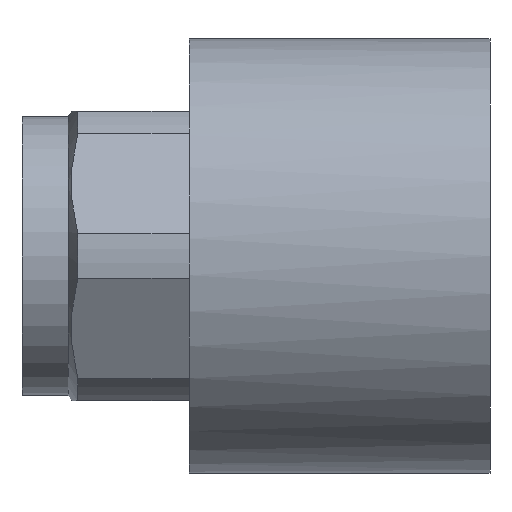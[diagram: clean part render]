
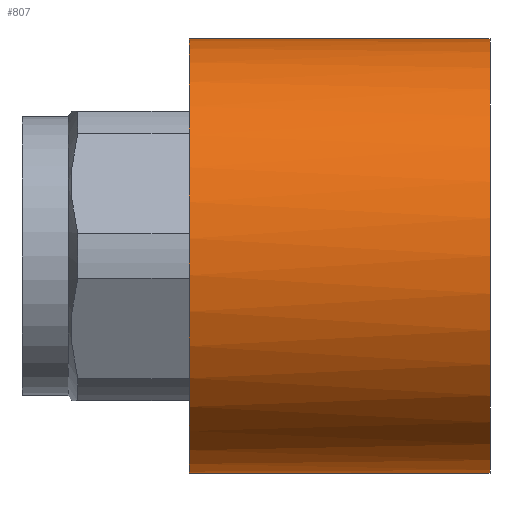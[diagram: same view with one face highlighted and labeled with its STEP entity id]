
A CAD part, front view. The second image highlights one B-rep face of the part: STEP entity #807.
In plain terms, the highlighted cylindrical face has radius 9.75 mm (diameter 19.5 mm), a full revolution.
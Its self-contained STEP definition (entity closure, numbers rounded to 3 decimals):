
#121=CARTESIAN_POINT('',(21.,9.75,0.0));
#122=VERTEX_POINT('',#121);
#123=CARTESIAN_POINT('',(21.,0.,0.0));
#124=DIRECTION('',(1.0,0.0,0.0));
#125=DIRECTION('',(0.0,1.0,0.0));
#126=AXIS2_PLACEMENT_3D('',#123,#124,#125);
#127=CIRCLE('',#126,9.75);
#128=EDGE_CURVE('',#122,#122,#127,.T.);
#376=CARTESIAN_POINT('',(7.5,1.996,9.544));
#377=VERTEX_POINT('',#376);
#378=CARTESIAN_POINT('',(7.5,0.,0.0));
#379=DIRECTION('',(1.0,0.0,0.0));
#380=DIRECTION('',(0.0,1.0,0.0));
#381=AXIS2_PLACEMENT_3D('',#378,#379,#380);
#382=CIRCLE('',#381,9.75);
#383=EDGE_CURVE('',#377,#377,#382,.T.);
#796=CARTESIAN_POINT('',(14.25,0.,0.0));
#797=DIRECTION('',(1.0,0.,0.0));
#798=DIRECTION('',(0.0,1.0,0.0));
#799=AXIS2_PLACEMENT_3D('',#796,#797,#798);
#800=CYLINDRICAL_SURFACE('',#799,9.75);
#801=ORIENTED_EDGE('',*,*,#128,.F.);
#802=EDGE_LOOP('',(#801));
#803=FACE_OUTER_BOUND('',#802,.T.);
#804=ORIENTED_EDGE('',*,*,#383,.T.);
#805=EDGE_LOOP('',(#804));
#806=FACE_BOUND('',#805,.T.);
#807=ADVANCED_FACE('',(#803,#806),#800,.T.);
